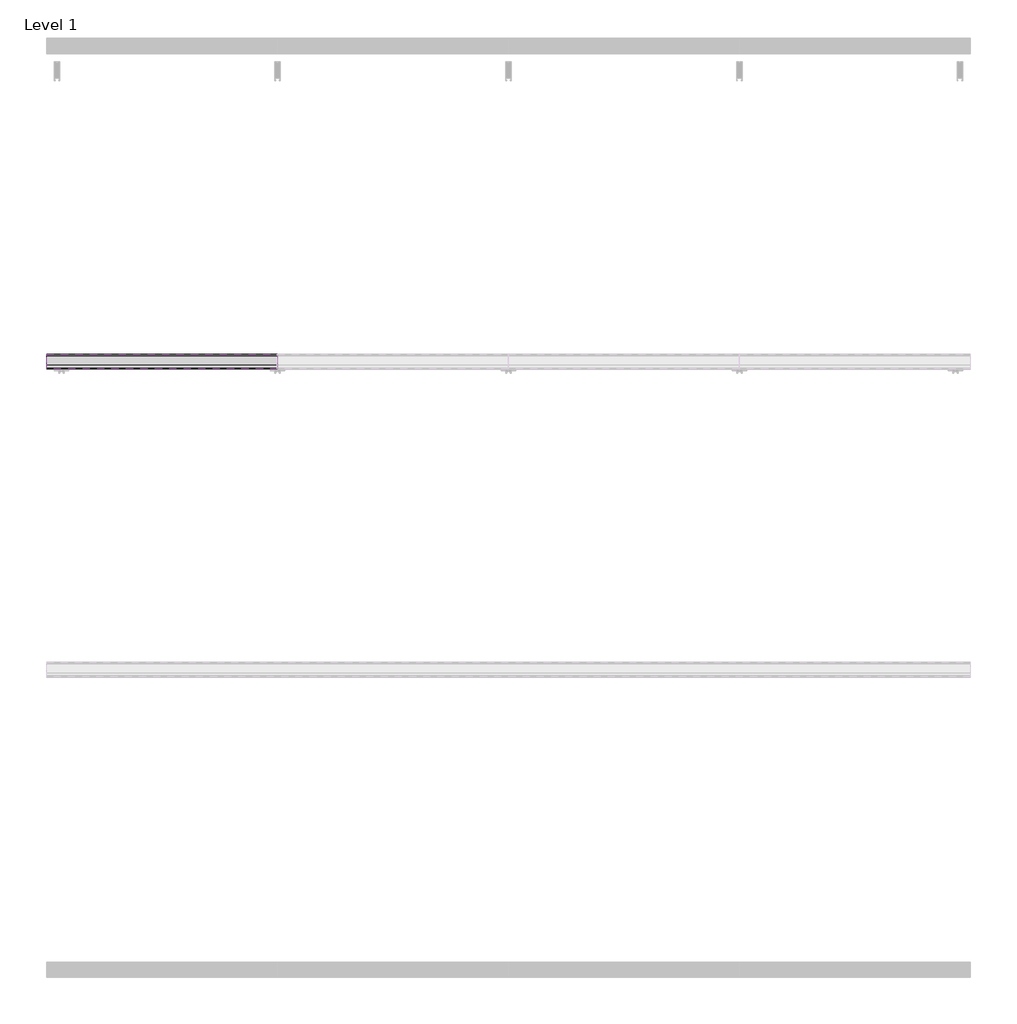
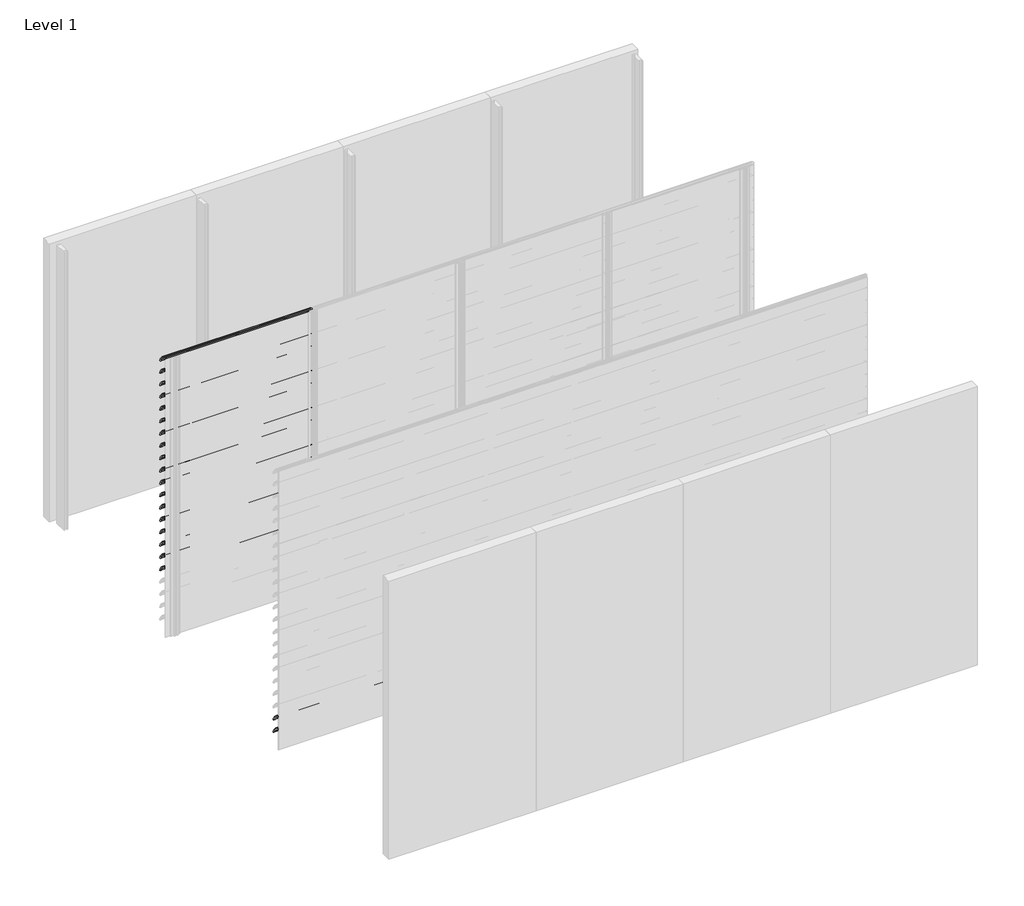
# One storey, part 4 of 57: 20 proxies.
"""IFC4 building model written with IfcOpenShell, lengths in millimetres."""

from ifc_helpers import new_model, si_unit, point, frame, frame_2d, origin, place, context, project, spatial, polyline, circle_curve, trimmed, segment, composite_curve, outline, extrude, element, save

model = new_model("IFC4")

# Units and contexts
model_context = context("Model", 3, world=origin())
ifc_project = project(units=[si_unit("LENGTHUNIT", "METRE", prefix="MILLI")], contexts=[model_context])

# Site, building, storey
site = spatial("IfcSite", under=ifc_project)
building = spatial("IfcBuilding", under=site)
storey = spatial("IfcBuildingStorey", under=building, Name="Level 1", Elevation=0.0)

# Proxies
placement = place(None, origin())
element("IfcBuildingElementProxy", 1, Name="Wall Sweeps", at=placement, inside=storey, context=model_context, shape_type="SweptSolid", body=[
    extrude(outline(composite_curve([segment(trimmed(circle_curve(frame_2d((-53993.7822526, 3016.4913792)), 4.2177474), [point((-53989.6985606, 3017.5462976))], [point((-53993.7822526, 3020.7091266))], False, "CARTESIAN"), True, "CONTINUOUS"), segment(trimmed(circle_curve(frame_2d((-54018.7150834, 2918.2536312)), 105.4456002), [point((-53993.7822526, 3020.7091266))], [point((-53971.7914298, 3012.6832099))], False, "CARTESIAN"), True, "CONTINUOUS"), segment(trimmed(circle_curve(frame_2d((-54061.7199745, 2864.0352476)), 173.7335887), [point((-53971.7914298, 3012.6832099))], [point((-53913.0720121, 2953.9637922))], False, "CARTESIAN"), True, "CONTINUOUS"), segment(trimmed(circle_curve(frame_2d((-54004.9297178, 2902.1860314)), 105.4456002), [point((-53913.0720121, 2953.9637922))], [point((-53903.6249616, 2931.4455765))], False, "CARTESIAN"), True, "CONTINUOUS"), segment(trimmed(circle_curve(frame_2d((-53907.809737, 2930.3307305)), 4.3307305), [point((-53903.6249616, 2931.4455765))], [point((-53909.0769196, 2926.189538))], False, "CARTESIAN"), True, "CONTINUOUS"), segment(polyline([(-53909.0769196, 2926.189538), (-53934.7401984, 2950.9722783)]), True, "CONTINUOUS"), segment(trimmed(circle_curve(frame_2d((-53931.3879574, 2953.2977626)), 4.079877), [point((-53934.7401984, 2950.9722783))], [point((-53930.7310597, 2957.3244091))], False, "CARTESIAN"), True, "CONTINUOUS"), segment(trimmed(circle_curve(frame_2d((-54014.6665585, 2935.2544323)), 86.7885467), [point((-53930.7310597, 2957.3244091))], [point((-53942.3028351, 2983.1683485))], True, "CARTESIAN"), True, "CONTINUOUS"), segment(polyline([(-53942.3028351, 2983.1683485), (-53940.7230099, 2985.9046861)]), True, "CONTINUOUS"), segment(trimmed(circle_curve(frame_2d((-54061.7199745, 2864.0352476)), 171.7335887), [point((-53940.7230099, 2985.9046861))], [point((-53972.7555872, 3010.9289618))], True, "CARTESIAN"), True, "CONTINUOUS"), segment(trimmed(circle_curve(frame_2d((-54018.7150834, 2918.2536312)), 103.4456002), [point((-53972.7555872, 3010.9289618))], [point((-53989.6985606, 3017.5462976))], True, "CARTESIAN"), True, "CONTINUOUS")], self_intersect=False)), frame((0.0, 0.0, 0.0), z_axis=(1.0, 0.0, 0.0), x_axis=(0.0, 1.0, 0.0)), (0.0, 0.0, 1.0), 1500.0),
])
element("IfcBuildingElementProxy", 2, Name="Wall Sweeps", at=placement, inside=storey, context=model_context, shape_type="SweptSolid", body=[
    extrude(outline(composite_curve([segment(trimmed(circle_curve(frame_2d((-53993.7822526, 2883.4913792)), 4.2177474), [point((-53989.6985606, 2884.5462976))], [point((-53993.7822526, 2887.7091266))], False, "CARTESIAN"), True, "CONTINUOUS"), segment(trimmed(circle_curve(frame_2d((-54018.7150834, 2785.2536312)), 105.4456002), [point((-53993.7822526, 2887.7091266))], [point((-53971.7914298, 2879.6832099))], False, "CARTESIAN"), True, "CONTINUOUS"), segment(trimmed(circle_curve(frame_2d((-54061.7199745, 2731.0352476)), 173.7335887), [point((-53971.7914298, 2879.6832099))], [point((-53913.0720121, 2820.9637922))], False, "CARTESIAN"), True, "CONTINUOUS"), segment(trimmed(circle_curve(frame_2d((-54004.9297178, 2769.1860314)), 105.4456002), [point((-53913.0720121, 2820.9637922))], [point((-53903.6249616, 2798.4455765))], False, "CARTESIAN"), True, "CONTINUOUS"), segment(trimmed(circle_curve(frame_2d((-53907.809737, 2797.3307305)), 4.3307305), [point((-53903.6249616, 2798.4455765))], [point((-53909.0769196, 2793.189538))], False, "CARTESIAN"), True, "CONTINUOUS"), segment(polyline([(-53909.0769196, 2793.189538), (-53934.7401984, 2817.9722783)]), True, "CONTINUOUS"), segment(trimmed(circle_curve(frame_2d((-53931.3879574, 2820.2977626)), 4.079877), [point((-53934.7401984, 2817.9722783))], [point((-53930.7310597, 2824.3244091))], False, "CARTESIAN"), True, "CONTINUOUS"), segment(trimmed(circle_curve(frame_2d((-54014.6665585, 2802.2544323)), 86.7885467), [point((-53930.7310597, 2824.3244091))], [point((-53942.3028351, 2850.1683485))], True, "CARTESIAN"), True, "CONTINUOUS"), segment(polyline([(-53942.3028351, 2850.1683485), (-53940.7230099, 2852.9046861)]), True, "CONTINUOUS"), segment(trimmed(circle_curve(frame_2d((-54061.7199745, 2731.0352476)), 171.7335887), [point((-53940.7230099, 2852.9046861))], [point((-53972.7555872, 2877.9289618))], True, "CARTESIAN"), True, "CONTINUOUS"), segment(trimmed(circle_curve(frame_2d((-54018.7150834, 2785.2536312)), 103.4456002), [point((-53972.7555872, 2877.9289618))], [point((-53989.6985606, 2884.5462976))], True, "CARTESIAN"), True, "CONTINUOUS")], self_intersect=False)), frame((0.0, 0.0, 0.0), z_axis=(1.0, 0.0, 0.0), x_axis=(0.0, 1.0, 0.0)), (0.0, 0.0, 1.0), 1500.0),
])
element("IfcBuildingElementProxy", 3, Name="Wall Sweeps", at=placement, inside=storey, context=model_context, shape_type="SweptSolid", body=[
    extrude(outline(composite_curve([segment(trimmed(circle_curve(frame_2d((-53993.7822526, 2750.4913792)), 4.2177474), [point((-53989.6985606, 2751.5462976))], [point((-53993.7822526, 2754.7091266))], False, "CARTESIAN"), True, "CONTINUOUS"), segment(trimmed(circle_curve(frame_2d((-54018.7150834, 2652.2536312)), 105.4456002), [point((-53993.7822526, 2754.7091266))], [point((-53971.7914298, 2746.6832099))], False, "CARTESIAN"), True, "CONTINUOUS"), segment(trimmed(circle_curve(frame_2d((-54061.7199745, 2598.0352476)), 173.7335887), [point((-53971.7914298, 2746.6832099))], [point((-53913.0720121, 2687.9637922))], False, "CARTESIAN"), True, "CONTINUOUS"), segment(trimmed(circle_curve(frame_2d((-54004.9297178, 2636.1860314)), 105.4456002), [point((-53913.0720121, 2687.9637922))], [point((-53903.6249616, 2665.4455765))], False, "CARTESIAN"), True, "CONTINUOUS"), segment(trimmed(circle_curve(frame_2d((-53907.809737, 2664.3307305)), 4.3307305), [point((-53903.6249616, 2665.4455765))], [point((-53909.0769196, 2660.189538))], False, "CARTESIAN"), True, "CONTINUOUS"), segment(polyline([(-53909.0769196, 2660.189538), (-53934.7401984, 2684.9722783)]), True, "CONTINUOUS"), segment(trimmed(circle_curve(frame_2d((-53931.3879574, 2687.2977626)), 4.079877), [point((-53934.7401984, 2684.9722783))], [point((-53930.7310597, 2691.3244091))], False, "CARTESIAN"), True, "CONTINUOUS"), segment(trimmed(circle_curve(frame_2d((-54014.6665585, 2669.2544323)), 86.7885467), [point((-53930.7310597, 2691.3244091))], [point((-53942.3028351, 2717.1683485))], True, "CARTESIAN"), True, "CONTINUOUS"), segment(polyline([(-53942.3028351, 2717.1683485), (-53940.7230099, 2719.9046861)]), True, "CONTINUOUS"), segment(trimmed(circle_curve(frame_2d((-54061.7199745, 2598.0352476)), 171.7335887), [point((-53940.7230099, 2719.9046861))], [point((-53972.7555872, 2744.9289618))], True, "CARTESIAN"), True, "CONTINUOUS"), segment(trimmed(circle_curve(frame_2d((-54018.7150834, 2652.2536312)), 103.4456002), [point((-53972.7555872, 2744.9289618))], [point((-53989.6985606, 2751.5462976))], True, "CARTESIAN"), True, "CONTINUOUS")], self_intersect=False)), frame((0.0, 0.0, 0.0), z_axis=(1.0, 0.0, 0.0), x_axis=(0.0, 1.0, 0.0)), (0.0, 0.0, 1.0), 1500.0),
])
element("IfcBuildingElementProxy", 4, Name="Wall Sweeps", at=placement, inside=storey, context=model_context, shape_type="SweptSolid", body=[
    extrude(outline(composite_curve([segment(trimmed(circle_curve(frame_2d((-53993.7822526, 2617.4913792)), 4.2177474), [point((-53989.6985606, 2618.5462976))], [point((-53993.7822526, 2621.7091266))], False, "CARTESIAN"), True, "CONTINUOUS"), segment(trimmed(circle_curve(frame_2d((-54018.7150834, 2519.2536312)), 105.4456002), [point((-53993.7822526, 2621.7091266))], [point((-53971.7914298, 2613.6832099))], False, "CARTESIAN"), True, "CONTINUOUS"), segment(trimmed(circle_curve(frame_2d((-54061.7199745, 2465.0352476)), 173.7335887), [point((-53971.7914298, 2613.6832099))], [point((-53913.0720121, 2554.9637922))], False, "CARTESIAN"), True, "CONTINUOUS"), segment(trimmed(circle_curve(frame_2d((-54004.9297178, 2503.1860314)), 105.4456002), [point((-53913.0720121, 2554.9637922))], [point((-53903.6249616, 2532.4455765))], False, "CARTESIAN"), True, "CONTINUOUS"), segment(trimmed(circle_curve(frame_2d((-53907.809737, 2531.3307305)), 4.3307305), [point((-53903.6249616, 2532.4455765))], [point((-53909.0769196, 2527.189538))], False, "CARTESIAN"), True, "CONTINUOUS"), segment(polyline([(-53909.0769196, 2527.189538), (-53934.7401984, 2551.9722783)]), True, "CONTINUOUS"), segment(trimmed(circle_curve(frame_2d((-53931.3879574, 2554.2977626)), 4.079877), [point((-53934.7401984, 2551.9722783))], [point((-53930.7310597, 2558.3244091))], False, "CARTESIAN"), True, "CONTINUOUS"), segment(trimmed(circle_curve(frame_2d((-54014.6665585, 2536.2544323)), 86.7885467), [point((-53930.7310597, 2558.3244091))], [point((-53942.3028351, 2584.1683485))], True, "CARTESIAN"), True, "CONTINUOUS"), segment(polyline([(-53942.3028351, 2584.1683485), (-53940.7230099, 2586.9046861)]), True, "CONTINUOUS"), segment(trimmed(circle_curve(frame_2d((-54061.7199745, 2465.0352476)), 171.7335887), [point((-53940.7230099, 2586.9046861))], [point((-53972.7555872, 2611.9289618))], True, "CARTESIAN"), True, "CONTINUOUS"), segment(trimmed(circle_curve(frame_2d((-54018.7150834, 2519.2536312)), 103.4456002), [point((-53972.7555872, 2611.9289618))], [point((-53989.6985606, 2618.5462976))], True, "CARTESIAN"), True, "CONTINUOUS")], self_intersect=False)), frame((0.0, 0.0, 0.0), z_axis=(1.0, 0.0, 0.0), x_axis=(0.0, 1.0, 0.0)), (0.0, 0.0, 1.0), 1500.0),
])
element("IfcBuildingElementProxy", 5, Name="Wall Sweeps", at=placement, inside=storey, context=model_context, shape_type="SweptSolid", body=[
    extrude(outline(composite_curve([segment(trimmed(circle_curve(frame_2d((-53993.7822526, 2484.4913792)), 4.2177474), [point((-53989.6985606, 2485.5462976))], [point((-53993.7822526, 2488.7091266))], False, "CARTESIAN"), True, "CONTINUOUS"), segment(trimmed(circle_curve(frame_2d((-54018.7150834, 2386.2536312)), 105.4456002), [point((-53993.7822526, 2488.7091266))], [point((-53971.7914298, 2480.6832099))], False, "CARTESIAN"), True, "CONTINUOUS"), segment(trimmed(circle_curve(frame_2d((-54061.7199745, 2332.0352476)), 173.7335887), [point((-53971.7914298, 2480.6832099))], [point((-53913.0720121, 2421.9637922))], False, "CARTESIAN"), True, "CONTINUOUS"), segment(trimmed(circle_curve(frame_2d((-54004.9297178, 2370.1860314)), 105.4456002), [point((-53913.0720121, 2421.9637922))], [point((-53903.6249616, 2399.4455765))], False, "CARTESIAN"), True, "CONTINUOUS"), segment(trimmed(circle_curve(frame_2d((-53907.809737, 2398.3307305)), 4.3307305), [point((-53903.6249616, 2399.4455765))], [point((-53909.0769196, 2394.189538))], False, "CARTESIAN"), True, "CONTINUOUS"), segment(polyline([(-53909.0769196, 2394.189538), (-53934.7401984, 2418.9722783)]), True, "CONTINUOUS"), segment(trimmed(circle_curve(frame_2d((-53931.3879574, 2421.2977626)), 4.079877), [point((-53934.7401984, 2418.9722783))], [point((-53930.7310597, 2425.3244091))], False, "CARTESIAN"), True, "CONTINUOUS"), segment(trimmed(circle_curve(frame_2d((-54014.6665585, 2403.2544323)), 86.7885467), [point((-53930.7310597, 2425.3244091))], [point((-53942.3028351, 2451.1683485))], True, "CARTESIAN"), True, "CONTINUOUS"), segment(polyline([(-53942.3028351, 2451.1683485), (-53940.7230099, 2453.9046861)]), True, "CONTINUOUS"), segment(trimmed(circle_curve(frame_2d((-54061.7199745, 2332.0352476)), 171.7335887), [point((-53940.7230099, 2453.9046861))], [point((-53972.7555872, 2478.9289618))], True, "CARTESIAN"), True, "CONTINUOUS"), segment(trimmed(circle_curve(frame_2d((-54018.7150834, 2386.2536312)), 103.4456002), [point((-53972.7555872, 2478.9289618))], [point((-53989.6985606, 2485.5462976))], True, "CARTESIAN"), True, "CONTINUOUS")], self_intersect=False)), frame((0.0, 0.0, 0.0), z_axis=(1.0, 0.0, 0.0), x_axis=(0.0, 1.0, 0.0)), (0.0, 0.0, 1.0), 1500.0),
])
element("IfcBuildingElementProxy", 6, Name="Wall Sweeps", at=placement, inside=storey, context=model_context, shape_type="SweptSolid", body=[
    extrude(outline(composite_curve([segment(trimmed(circle_curve(frame_2d((-53993.7822526, 2351.4913792)), 4.2177474), [point((-53989.6985606, 2352.5462976))], [point((-53993.7822526, 2355.7091266))], False, "CARTESIAN"), True, "CONTINUOUS"), segment(trimmed(circle_curve(frame_2d((-54018.7150834, 2253.2536312)), 105.4456002), [point((-53993.7822526, 2355.7091266))], [point((-53971.7914298, 2347.6832099))], False, "CARTESIAN"), True, "CONTINUOUS"), segment(trimmed(circle_curve(frame_2d((-54061.7199745, 2199.0352476)), 173.7335887), [point((-53971.7914298, 2347.6832099))], [point((-53913.0720121, 2288.9637922))], False, "CARTESIAN"), True, "CONTINUOUS"), segment(trimmed(circle_curve(frame_2d((-54004.9297178, 2237.1860314)), 105.4456002), [point((-53913.0720121, 2288.9637922))], [point((-53903.6249616, 2266.4455765))], False, "CARTESIAN"), True, "CONTINUOUS"), segment(trimmed(circle_curve(frame_2d((-53907.809737, 2265.3307305)), 4.3307305), [point((-53903.6249616, 2266.4455765))], [point((-53909.0769196, 2261.189538))], False, "CARTESIAN"), True, "CONTINUOUS"), segment(polyline([(-53909.0769196, 2261.189538), (-53934.7401984, 2285.9722783)]), True, "CONTINUOUS"), segment(trimmed(circle_curve(frame_2d((-53931.3879574, 2288.2977626)), 4.079877), [point((-53934.7401984, 2285.9722783))], [point((-53930.7310597, 2292.3244091))], False, "CARTESIAN"), True, "CONTINUOUS"), segment(trimmed(circle_curve(frame_2d((-54014.6665585, 2270.2544323)), 86.7885467), [point((-53930.7310597, 2292.3244091))], [point((-53942.3028351, 2318.1683485))], True, "CARTESIAN"), True, "CONTINUOUS"), segment(polyline([(-53942.3028351, 2318.1683485), (-53940.7230099, 2320.9046861)]), True, "CONTINUOUS"), segment(trimmed(circle_curve(frame_2d((-54061.7199745, 2199.0352476)), 171.7335887), [point((-53940.7230099, 2320.9046861))], [point((-53972.7555872, 2345.9289618))], True, "CARTESIAN"), True, "CONTINUOUS"), segment(trimmed(circle_curve(frame_2d((-54018.7150834, 2253.2536312)), 103.4456002), [point((-53972.7555872, 2345.9289618))], [point((-53989.6985606, 2352.5462976))], True, "CARTESIAN"), True, "CONTINUOUS")], self_intersect=False)), frame((0.0, 0.0, 0.0), z_axis=(1.0, 0.0, 0.0), x_axis=(0.0, 1.0, 0.0)), (0.0, 0.0, 1.0), 1500.0),
])
element("IfcBuildingElementProxy", 7, Name="Wall Sweeps", at=placement, inside=storey, context=model_context, shape_type="SweptSolid", body=[
    extrude(outline(composite_curve([segment(trimmed(circle_curve(frame_2d((-53993.7822526, 2218.4913792)), 4.2177474), [point((-53989.6985606, 2219.5462976))], [point((-53993.7822526, 2222.7091266))], False, "CARTESIAN"), True, "CONTINUOUS"), segment(trimmed(circle_curve(frame_2d((-54018.7150834, 2120.2536312)), 105.4456002), [point((-53993.7822526, 2222.7091266))], [point((-53971.7914298, 2214.6832099))], False, "CARTESIAN"), True, "CONTINUOUS"), segment(trimmed(circle_curve(frame_2d((-54061.7199745, 2066.0352476)), 173.7335887), [point((-53971.7914298, 2214.6832099))], [point((-53913.0720121, 2155.9637922))], False, "CARTESIAN"), True, "CONTINUOUS"), segment(trimmed(circle_curve(frame_2d((-54004.9297178, 2104.1860314)), 105.4456002), [point((-53913.0720121, 2155.9637922))], [point((-53903.6249616, 2133.4455765))], False, "CARTESIAN"), True, "CONTINUOUS"), segment(trimmed(circle_curve(frame_2d((-53907.809737, 2132.3307305)), 4.3307305), [point((-53903.6249616, 2133.4455765))], [point((-53909.0769196, 2128.189538))], False, "CARTESIAN"), True, "CONTINUOUS"), segment(polyline([(-53909.0769196, 2128.189538), (-53934.7401984, 2152.9722783)]), True, "CONTINUOUS"), segment(trimmed(circle_curve(frame_2d((-53931.3879574, 2155.2977626)), 4.079877), [point((-53934.7401984, 2152.9722783))], [point((-53930.7310597, 2159.3244091))], False, "CARTESIAN"), True, "CONTINUOUS"), segment(trimmed(circle_curve(frame_2d((-54014.6665585, 2137.2544323)), 86.7885467), [point((-53930.7310597, 2159.3244091))], [point((-53942.3028351, 2185.1683485))], True, "CARTESIAN"), True, "CONTINUOUS"), segment(polyline([(-53942.3028351, 2185.1683485), (-53940.7230099, 2187.9046861)]), True, "CONTINUOUS"), segment(trimmed(circle_curve(frame_2d((-54061.7199745, 2066.0352476)), 171.7335887), [point((-53940.7230099, 2187.9046861))], [point((-53972.7555872, 2212.9289618))], True, "CARTESIAN"), True, "CONTINUOUS"), segment(trimmed(circle_curve(frame_2d((-54018.7150834, 2120.2536312)), 103.4456002), [point((-53972.7555872, 2212.9289618))], [point((-53989.6985606, 2219.5462976))], True, "CARTESIAN"), True, "CONTINUOUS")], self_intersect=False)), frame((0.0, 0.0, 0.0), z_axis=(1.0, 0.0, 0.0), x_axis=(0.0, 1.0, 0.0)), (0.0, 0.0, 1.0), 1500.0),
])
element("IfcBuildingElementProxy", 8, Name="Wall Sweeps", at=placement, inside=storey, context=model_context, shape_type="SweptSolid", body=[
    extrude(outline(composite_curve([segment(trimmed(circle_curve(frame_2d((-53993.7822526, 2085.4913792)), 4.2177474), [point((-53989.6985606, 2086.5462976))], [point((-53993.7822526, 2089.7091266))], False, "CARTESIAN"), True, "CONTINUOUS"), segment(trimmed(circle_curve(frame_2d((-54018.7150834, 1987.2536312)), 105.4456002), [point((-53993.7822526, 2089.7091266))], [point((-53971.7914298, 2081.6832099))], False, "CARTESIAN"), True, "CONTINUOUS"), segment(trimmed(circle_curve(frame_2d((-54061.7199745, 1933.0352476)), 173.7335887), [point((-53971.7914298, 2081.6832099))], [point((-53913.0720121, 2022.9637922))], False, "CARTESIAN"), True, "CONTINUOUS"), segment(trimmed(circle_curve(frame_2d((-54004.9297178, 1971.1860314)), 105.4456002), [point((-53913.0720121, 2022.9637922))], [point((-53903.6249616, 2000.4455765))], False, "CARTESIAN"), True, "CONTINUOUS"), segment(trimmed(circle_curve(frame_2d((-53907.809737, 1999.3307305)), 4.3307305), [point((-53903.6249616, 2000.4455765))], [point((-53909.0769196, 1995.189538))], False, "CARTESIAN"), True, "CONTINUOUS"), segment(polyline([(-53909.0769196, 1995.189538), (-53934.7401984, 2019.9722783)]), True, "CONTINUOUS"), segment(trimmed(circle_curve(frame_2d((-53931.3879574, 2022.2977626)), 4.079877), [point((-53934.7401984, 2019.9722783))], [point((-53930.7310597, 2026.3244091))], False, "CARTESIAN"), True, "CONTINUOUS"), segment(trimmed(circle_curve(frame_2d((-54014.6665585, 2004.2544323)), 86.7885467), [point((-53930.7310597, 2026.3244091))], [point((-53942.3028351, 2052.1683485))], True, "CARTESIAN"), True, "CONTINUOUS"), segment(polyline([(-53942.3028351, 2052.1683485), (-53940.7230099, 2054.9046861)]), True, "CONTINUOUS"), segment(trimmed(circle_curve(frame_2d((-54061.7199745, 1933.0352476)), 171.7335887), [point((-53940.7230099, 2054.9046861))], [point((-53972.7555872, 2079.9289618))], True, "CARTESIAN"), True, "CONTINUOUS"), segment(trimmed(circle_curve(frame_2d((-54018.7150834, 1987.2536312)), 103.4456002), [point((-53972.7555872, 2079.9289618))], [point((-53989.6985606, 2086.5462976))], True, "CARTESIAN"), True, "CONTINUOUS")], self_intersect=False)), frame((0.0, 0.0, 0.0), z_axis=(1.0, 0.0, 0.0), x_axis=(0.0, 1.0, 0.0)), (0.0, 0.0, 1.0), 1500.0),
])
element("IfcBuildingElementProxy", 9, Name="Wall Sweeps", at=placement, inside=storey, context=model_context, shape_type="SweptSolid", body=[
    extrude(outline(composite_curve([segment(trimmed(circle_curve(frame_2d((-53993.7822526, 1952.4913792)), 4.2177474), [point((-53989.6985606, 1953.5462976))], [point((-53993.7822526, 1956.7091266))], False, "CARTESIAN"), True, "CONTINUOUS"), segment(trimmed(circle_curve(frame_2d((-54018.7150834, 1854.2536312)), 105.4456002), [point((-53993.7822526, 1956.7091266))], [point((-53971.7914298, 1948.6832099))], False, "CARTESIAN"), True, "CONTINUOUS"), segment(trimmed(circle_curve(frame_2d((-54061.7199745, 1800.0352476)), 173.7335887), [point((-53971.7914298, 1948.6832099))], [point((-53913.0720121, 1889.9637922))], False, "CARTESIAN"), True, "CONTINUOUS"), segment(trimmed(circle_curve(frame_2d((-54004.9297178, 1838.1860314)), 105.4456002), [point((-53913.0720121, 1889.9637922))], [point((-53903.6249616, 1867.4455765))], False, "CARTESIAN"), True, "CONTINUOUS"), segment(trimmed(circle_curve(frame_2d((-53907.809737, 1866.3307305)), 4.3307305), [point((-53903.6249616, 1867.4455765))], [point((-53909.0769196, 1862.189538))], False, "CARTESIAN"), True, "CONTINUOUS"), segment(polyline([(-53909.0769196, 1862.189538), (-53934.7401984, 1886.9722783)]), True, "CONTINUOUS"), segment(trimmed(circle_curve(frame_2d((-53931.3879574, 1889.2977626)), 4.079877), [point((-53934.7401984, 1886.9722783))], [point((-53930.7310597, 1893.3244091))], False, "CARTESIAN"), True, "CONTINUOUS"), segment(trimmed(circle_curve(frame_2d((-54014.6665585, 1871.2544323)), 86.7885467), [point((-53930.7310597, 1893.3244091))], [point((-53942.3028351, 1919.1683485))], True, "CARTESIAN"), True, "CONTINUOUS"), segment(polyline([(-53942.3028351, 1919.1683485), (-53940.7230099, 1921.9046861)]), True, "CONTINUOUS"), segment(trimmed(circle_curve(frame_2d((-54061.7199745, 1800.0352476)), 171.7335887), [point((-53940.7230099, 1921.9046861))], [point((-53972.7555872, 1946.9289618))], True, "CARTESIAN"), True, "CONTINUOUS"), segment(trimmed(circle_curve(frame_2d((-54018.7150834, 1854.2536312)), 103.4456002), [point((-53972.7555872, 1946.9289618))], [point((-53989.6985606, 1953.5462976))], True, "CARTESIAN"), True, "CONTINUOUS")], self_intersect=False)), frame((0.0, 0.0, 0.0), z_axis=(1.0, 0.0, 0.0), x_axis=(0.0, 1.0, 0.0)), (0.0, 0.0, 1.0), 1500.0),
])
element("IfcBuildingElementProxy", 10, Name="Wall Sweeps", at=placement, inside=storey, context=model_context, shape_type="SweptSolid", body=[
    extrude(outline(composite_curve([segment(trimmed(circle_curve(frame_2d((-53993.7822526, 1819.4913792)), 4.2177474), [point((-53989.6985606, 1820.5462976))], [point((-53993.7822526, 1823.7091266))], False, "CARTESIAN"), True, "CONTINUOUS"), segment(trimmed(circle_curve(frame_2d((-54018.7150834, 1721.2536312)), 105.4456002), [point((-53993.7822526, 1823.7091266))], [point((-53971.7914298, 1815.6832099))], False, "CARTESIAN"), True, "CONTINUOUS"), segment(trimmed(circle_curve(frame_2d((-54061.7199745, 1667.0352476)), 173.7335887), [point((-53971.7914298, 1815.6832099))], [point((-53913.0720121, 1756.9637922))], False, "CARTESIAN"), True, "CONTINUOUS"), segment(trimmed(circle_curve(frame_2d((-54004.9297178, 1705.1860314)), 105.4456002), [point((-53913.0720121, 1756.9637922))], [point((-53903.6249616, 1734.4455765))], False, "CARTESIAN"), True, "CONTINUOUS"), segment(trimmed(circle_curve(frame_2d((-53907.809737, 1733.3307305)), 4.3307305), [point((-53903.6249616, 1734.4455765))], [point((-53909.0769196, 1729.189538))], False, "CARTESIAN"), True, "CONTINUOUS"), segment(polyline([(-53909.0769196, 1729.189538), (-53934.7401984, 1753.9722783)]), True, "CONTINUOUS"), segment(trimmed(circle_curve(frame_2d((-53931.3879574, 1756.2977626)), 4.079877), [point((-53934.7401984, 1753.9722783))], [point((-53930.7310597, 1760.3244091))], False, "CARTESIAN"), True, "CONTINUOUS"), segment(trimmed(circle_curve(frame_2d((-54014.6665585, 1738.2544323)), 86.7885467), [point((-53930.7310597, 1760.3244091))], [point((-53942.3028351, 1786.1683485))], True, "CARTESIAN"), True, "CONTINUOUS"), segment(polyline([(-53942.3028351, 1786.1683485), (-53940.7230099, 1788.9046861)]), True, "CONTINUOUS"), segment(trimmed(circle_curve(frame_2d((-54061.7199745, 1667.0352476)), 171.7335887), [point((-53940.7230099, 1788.9046861))], [point((-53972.7555872, 1813.9289618))], True, "CARTESIAN"), True, "CONTINUOUS"), segment(trimmed(circle_curve(frame_2d((-54018.7150834, 1721.2536312)), 103.4456002), [point((-53972.7555872, 1813.9289618))], [point((-53989.6985606, 1820.5462976))], True, "CARTESIAN"), True, "CONTINUOUS")], self_intersect=False)), frame((0.0, 0.0, 0.0), z_axis=(1.0, 0.0, 0.0), x_axis=(0.0, 1.0, 0.0)), (0.0, 0.0, 1.0), 1500.0),
])
element("IfcBuildingElementProxy", 11, Name="Wall Sweeps", at=placement, inside=storey, context=model_context, shape_type="SweptSolid", body=[
    extrude(outline(composite_curve([segment(trimmed(circle_curve(frame_2d((-53993.7822526, 1686.4913792)), 4.2177474), [point((-53989.6985606, 1687.5462976))], [point((-53993.7822526, 1690.7091266))], False, "CARTESIAN"), True, "CONTINUOUS"), segment(trimmed(circle_curve(frame_2d((-54018.7150834, 1588.2536312)), 105.4456002), [point((-53993.7822526, 1690.7091266))], [point((-53971.7914298, 1682.6832099))], False, "CARTESIAN"), True, "CONTINUOUS"), segment(trimmed(circle_curve(frame_2d((-54061.7199745, 1534.0352476)), 173.7335887), [point((-53971.7914298, 1682.6832099))], [point((-53913.0720121, 1623.9637922))], False, "CARTESIAN"), True, "CONTINUOUS"), segment(trimmed(circle_curve(frame_2d((-54004.9297178, 1572.1860314)), 105.4456002), [point((-53913.0720121, 1623.9637922))], [point((-53903.6249616, 1601.4455765))], False, "CARTESIAN"), True, "CONTINUOUS"), segment(trimmed(circle_curve(frame_2d((-53907.809737, 1600.3307305)), 4.3307305), [point((-53903.6249616, 1601.4455765))], [point((-53909.0769196, 1596.189538))], False, "CARTESIAN"), True, "CONTINUOUS"), segment(polyline([(-53909.0769196, 1596.189538), (-53934.7401984, 1620.9722783)]), True, "CONTINUOUS"), segment(trimmed(circle_curve(frame_2d((-53931.3879574, 1623.2977626)), 4.079877), [point((-53934.7401984, 1620.9722783))], [point((-53930.7310597, 1627.3244091))], False, "CARTESIAN"), True, "CONTINUOUS"), segment(trimmed(circle_curve(frame_2d((-54014.6665585, 1605.2544323)), 86.7885467), [point((-53930.7310597, 1627.3244091))], [point((-53942.3028351, 1653.1683485))], True, "CARTESIAN"), True, "CONTINUOUS"), segment(polyline([(-53942.3028351, 1653.1683485), (-53940.7230099, 1655.9046861)]), True, "CONTINUOUS"), segment(trimmed(circle_curve(frame_2d((-54061.7199745, 1534.0352476)), 171.7335887), [point((-53940.7230099, 1655.9046861))], [point((-53972.7555872, 1680.9289618))], True, "CARTESIAN"), True, "CONTINUOUS"), segment(trimmed(circle_curve(frame_2d((-54018.7150834, 1588.2536312)), 103.4456002), [point((-53972.7555872, 1680.9289618))], [point((-53989.6985606, 1687.5462976))], True, "CARTESIAN"), True, "CONTINUOUS")], self_intersect=False)), frame((0.0, 0.0, 0.0), z_axis=(1.0, 0.0, 0.0), x_axis=(0.0, 1.0, 0.0)), (0.0, 0.0, 1.0), 1500.0),
])
element("IfcBuildingElementProxy", 12, Name="Wall Sweeps", at=placement, inside=storey, context=model_context, shape_type="SweptSolid", body=[
    extrude(outline(composite_curve([segment(trimmed(circle_curve(frame_2d((-53993.7822526, 1553.4913792)), 4.2177474), [point((-53989.6985606, 1554.5462976))], [point((-53993.7822526, 1557.7091266))], False, "CARTESIAN"), True, "CONTINUOUS"), segment(trimmed(circle_curve(frame_2d((-54018.7150834, 1455.2536312)), 105.4456002), [point((-53993.7822526, 1557.7091266))], [point((-53971.7914298, 1549.6832099))], False, "CARTESIAN"), True, "CONTINUOUS"), segment(trimmed(circle_curve(frame_2d((-54061.7199745, 1401.0352476)), 173.7335887), [point((-53971.7914298, 1549.6832099))], [point((-53913.0720121, 1490.9637922))], False, "CARTESIAN"), True, "CONTINUOUS"), segment(trimmed(circle_curve(frame_2d((-54004.9297178, 1439.1860314)), 105.4456002), [point((-53913.0720121, 1490.9637922))], [point((-53903.6249616, 1468.4455765))], False, "CARTESIAN"), True, "CONTINUOUS"), segment(trimmed(circle_curve(frame_2d((-53907.809737, 1467.3307305)), 4.3307305), [point((-53903.6249616, 1468.4455765))], [point((-53909.0769196, 1463.189538))], False, "CARTESIAN"), True, "CONTINUOUS"), segment(polyline([(-53909.0769196, 1463.189538), (-53934.7401984, 1487.9722783)]), True, "CONTINUOUS"), segment(trimmed(circle_curve(frame_2d((-53931.3879574, 1490.2977626)), 4.079877), [point((-53934.7401984, 1487.9722783))], [point((-53930.7310597, 1494.3244091))], False, "CARTESIAN"), True, "CONTINUOUS"), segment(trimmed(circle_curve(frame_2d((-54014.6665585, 1472.2544323)), 86.7885467), [point((-53930.7310597, 1494.3244091))], [point((-53942.3028351, 1520.1683485))], True, "CARTESIAN"), True, "CONTINUOUS"), segment(polyline([(-53942.3028351, 1520.1683485), (-53940.7230099, 1522.9046861)]), True, "CONTINUOUS"), segment(trimmed(circle_curve(frame_2d((-54061.7199745, 1401.0352476)), 171.7335887), [point((-53940.7230099, 1522.9046861))], [point((-53972.7555872, 1547.9289618))], True, "CARTESIAN"), True, "CONTINUOUS"), segment(trimmed(circle_curve(frame_2d((-54018.7150834, 1455.2536312)), 103.4456002), [point((-53972.7555872, 1547.9289618))], [point((-53989.6985606, 1554.5462976))], True, "CARTESIAN"), True, "CONTINUOUS")], self_intersect=False)), frame((0.0, 0.0, 0.0), z_axis=(1.0, 0.0, 0.0), x_axis=(0.0, 1.0, 0.0)), (0.0, 0.0, 1.0), 1500.0),
])
element("IfcBuildingElementProxy", 13, Name="Wall Sweeps", at=placement, inside=storey, context=model_context, shape_type="SweptSolid", body=[
    extrude(outline(composite_curve([segment(trimmed(circle_curve(frame_2d((-53993.7822526, 1420.4913792)), 4.2177474), [point((-53989.6985606, 1421.5462976))], [point((-53993.7822526, 1424.7091266))], False, "CARTESIAN"), True, "CONTINUOUS"), segment(trimmed(circle_curve(frame_2d((-54018.7150834, 1322.2536312)), 105.4456002), [point((-53993.7822526, 1424.7091266))], [point((-53971.7914298, 1416.6832099))], False, "CARTESIAN"), True, "CONTINUOUS"), segment(trimmed(circle_curve(frame_2d((-54061.7199745, 1268.0352476)), 173.7335887), [point((-53971.7914298, 1416.6832099))], [point((-53913.0720121, 1357.9637922))], False, "CARTESIAN"), True, "CONTINUOUS"), segment(trimmed(circle_curve(frame_2d((-54004.9297178, 1306.1860314)), 105.4456002), [point((-53913.0720121, 1357.9637922))], [point((-53903.6249616, 1335.4455765))], False, "CARTESIAN"), True, "CONTINUOUS"), segment(trimmed(circle_curve(frame_2d((-53907.809737, 1334.3307305)), 4.3307305), [point((-53903.6249616, 1335.4455765))], [point((-53909.0769196, 1330.189538))], False, "CARTESIAN"), True, "CONTINUOUS"), segment(polyline([(-53909.0769196, 1330.189538), (-53934.7401984, 1354.9722783)]), True, "CONTINUOUS"), segment(trimmed(circle_curve(frame_2d((-53931.3879574, 1357.2977626)), 4.079877), [point((-53934.7401984, 1354.9722783))], [point((-53930.7310597, 1361.3244091))], False, "CARTESIAN"), True, "CONTINUOUS"), segment(trimmed(circle_curve(frame_2d((-54014.6665585, 1339.2544323)), 86.7885467), [point((-53930.7310597, 1361.3244091))], [point((-53942.3028351, 1387.1683485))], True, "CARTESIAN"), True, "CONTINUOUS"), segment(polyline([(-53942.3028351, 1387.1683485), (-53940.7230099, 1389.9046861)]), True, "CONTINUOUS"), segment(trimmed(circle_curve(frame_2d((-54061.7199745, 1268.0352476)), 171.7335887), [point((-53940.7230099, 1389.9046861))], [point((-53972.7555872, 1414.9289618))], True, "CARTESIAN"), True, "CONTINUOUS"), segment(trimmed(circle_curve(frame_2d((-54018.7150834, 1322.2536312)), 103.4456002), [point((-53972.7555872, 1414.9289618))], [point((-53989.6985606, 1421.5462976))], True, "CARTESIAN"), True, "CONTINUOUS")], self_intersect=False)), frame((0.0, 0.0, 0.0), z_axis=(1.0, 0.0, 0.0), x_axis=(0.0, 1.0, 0.0)), (0.0, 0.0, 1.0), 1500.0),
])
element("IfcBuildingElementProxy", 14, Name="Wall Sweeps", at=placement, inside=storey, context=model_context, shape_type="SweptSolid", body=[
    extrude(outline(composite_curve([segment(trimmed(circle_curve(frame_2d((-53993.7822526, 1287.4913792)), 4.2177474), [point((-53989.6985606, 1288.5462976))], [point((-53993.7822526, 1291.7091266))], False, "CARTESIAN"), True, "CONTINUOUS"), segment(trimmed(circle_curve(frame_2d((-54018.7150834, 1189.2536312)), 105.4456002), [point((-53993.7822526, 1291.7091266))], [point((-53971.7914298, 1283.6832099))], False, "CARTESIAN"), True, "CONTINUOUS"), segment(trimmed(circle_curve(frame_2d((-54061.7199745, 1135.0352476)), 173.7335887), [point((-53971.7914298, 1283.6832099))], [point((-53913.0720121, 1224.9637922))], False, "CARTESIAN"), True, "CONTINUOUS"), segment(trimmed(circle_curve(frame_2d((-54004.9297178, 1173.1860314)), 105.4456002), [point((-53913.0720121, 1224.9637922))], [point((-53903.6249616, 1202.4455765))], False, "CARTESIAN"), True, "CONTINUOUS"), segment(trimmed(circle_curve(frame_2d((-53907.809737, 1201.3307305)), 4.3307305), [point((-53903.6249616, 1202.4455765))], [point((-53909.0769196, 1197.189538))], False, "CARTESIAN"), True, "CONTINUOUS"), segment(polyline([(-53909.0769196, 1197.189538), (-53934.7401984, 1221.9722783)]), True, "CONTINUOUS"), segment(trimmed(circle_curve(frame_2d((-53931.3879574, 1224.2977626)), 4.079877), [point((-53934.7401984, 1221.9722783))], [point((-53930.7310597, 1228.3244091))], False, "CARTESIAN"), True, "CONTINUOUS"), segment(trimmed(circle_curve(frame_2d((-54014.6665585, 1206.2544323)), 86.7885467), [point((-53930.7310597, 1228.3244091))], [point((-53942.3028351, 1254.1683485))], True, "CARTESIAN"), True, "CONTINUOUS"), segment(polyline([(-53942.3028351, 1254.1683485), (-53940.7230099, 1256.9046861)]), True, "CONTINUOUS"), segment(trimmed(circle_curve(frame_2d((-54061.7199745, 1135.0352476)), 171.7335887), [point((-53940.7230099, 1256.9046861))], [point((-53972.7555872, 1281.9289618))], True, "CARTESIAN"), True, "CONTINUOUS"), segment(trimmed(circle_curve(frame_2d((-54018.7150834, 1189.2536312)), 103.4456002), [point((-53972.7555872, 1281.9289618))], [point((-53989.6985606, 1288.5462976))], True, "CARTESIAN"), True, "CONTINUOUS")], self_intersect=False)), frame((0.0, 0.0, 0.0), z_axis=(1.0, 0.0, 0.0), x_axis=(0.0, 1.0, 0.0)), (0.0, 0.0, 1.0), 1500.0),
])
element("IfcBuildingElementProxy", 15, Name="Wall Sweeps", at=placement, inside=storey, context=model_context, shape_type="SweptSolid", body=[
    extrude(outline(composite_curve([segment(trimmed(circle_curve(frame_2d((-53993.7822526, 1154.4913792)), 4.2177474), [point((-53989.6985606, 1155.5462976))], [point((-53993.7822526, 1158.7091266))], False, "CARTESIAN"), True, "CONTINUOUS"), segment(trimmed(circle_curve(frame_2d((-54018.7150834, 1056.2536312)), 105.4456002), [point((-53993.7822526, 1158.7091266))], [point((-53971.7914298, 1150.6832099))], False, "CARTESIAN"), True, "CONTINUOUS"), segment(trimmed(circle_curve(frame_2d((-54061.7199745, 1002.0352476)), 173.7335887), [point((-53971.7914298, 1150.6832099))], [point((-53913.0720121, 1091.9637922))], False, "CARTESIAN"), True, "CONTINUOUS"), segment(trimmed(circle_curve(frame_2d((-54004.9297178, 1040.1860314)), 105.4456002), [point((-53913.0720121, 1091.9637922))], [point((-53903.6249616, 1069.4455765))], False, "CARTESIAN"), True, "CONTINUOUS"), segment(trimmed(circle_curve(frame_2d((-53907.809737, 1068.3307305)), 4.3307305), [point((-53903.6249616, 1069.4455765))], [point((-53909.0769196, 1064.189538))], False, "CARTESIAN"), True, "CONTINUOUS"), segment(polyline([(-53909.0769196, 1064.189538), (-53934.7401984, 1088.9722783)]), True, "CONTINUOUS"), segment(trimmed(circle_curve(frame_2d((-53931.3879574, 1091.2977626)), 4.079877), [point((-53934.7401984, 1088.9722783))], [point((-53930.7310597, 1095.3244091))], False, "CARTESIAN"), True, "CONTINUOUS"), segment(trimmed(circle_curve(frame_2d((-54014.6665585, 1073.2544323)), 86.7885467), [point((-53930.7310597, 1095.3244091))], [point((-53942.3028351, 1121.1683485))], True, "CARTESIAN"), True, "CONTINUOUS"), segment(polyline([(-53942.3028351, 1121.1683485), (-53940.7230099, 1123.9046861)]), True, "CONTINUOUS"), segment(trimmed(circle_curve(frame_2d((-54061.7199745, 1002.0352476)), 171.7335887), [point((-53940.7230099, 1123.9046861))], [point((-53972.7555872, 1148.9289618))], True, "CARTESIAN"), True, "CONTINUOUS"), segment(trimmed(circle_curve(frame_2d((-54018.7150834, 1056.2536312)), 103.4456002), [point((-53972.7555872, 1148.9289618))], [point((-53989.6985606, 1155.5462976))], True, "CARTESIAN"), True, "CONTINUOUS")], self_intersect=False)), frame((0.0, 0.0, 0.0), z_axis=(1.0, 0.0, 0.0), x_axis=(0.0, 1.0, 0.0)), (0.0, 0.0, 1.0), 1500.0),
])
element("IfcBuildingElementProxy", 16, Name="Wall Sweeps", at=placement, inside=storey, context=model_context, shape_type="SweptSolid", body=[
    extrude(outline(composite_curve([segment(trimmed(circle_curve(frame_2d((-53993.7822526, 1021.4913792)), 4.2177474), [point((-53989.6985606, 1022.5462976))], [point((-53993.7822526, 1025.7091266))], False, "CARTESIAN"), True, "CONTINUOUS"), segment(trimmed(circle_curve(frame_2d((-54018.7150834, 923.2536312)), 105.4456002), [point((-53993.7822526, 1025.7091266))], [point((-53971.7914298, 1017.6832099))], False, "CARTESIAN"), True, "CONTINUOUS"), segment(trimmed(circle_curve(frame_2d((-54061.7199745, 869.0352476)), 173.7335887), [point((-53971.7914298, 1017.6832099))], [point((-53913.0720121, 958.9637922))], False, "CARTESIAN"), True, "CONTINUOUS"), segment(trimmed(circle_curve(frame_2d((-54004.9297178, 907.1860314)), 105.4456002), [point((-53913.0720121, 958.9637922))], [point((-53903.6249616, 936.4455765))], False, "CARTESIAN"), True, "CONTINUOUS"), segment(trimmed(circle_curve(frame_2d((-53907.809737, 935.3307305)), 4.3307305), [point((-53903.6249616, 936.4455765))], [point((-53909.0769196, 931.189538))], False, "CARTESIAN"), True, "CONTINUOUS"), segment(polyline([(-53909.0769196, 931.189538), (-53934.7401984, 955.9722783)]), True, "CONTINUOUS"), segment(trimmed(circle_curve(frame_2d((-53931.3879574, 958.2977626)), 4.079877), [point((-53934.7401984, 955.9722783))], [point((-53930.7310597, 962.3244091))], False, "CARTESIAN"), True, "CONTINUOUS"), segment(trimmed(circle_curve(frame_2d((-54014.6665585, 940.2544323)), 86.7885467), [point((-53930.7310597, 962.3244091))], [point((-53942.3028351, 988.1683485))], True, "CARTESIAN"), True, "CONTINUOUS"), segment(polyline([(-53942.3028351, 988.1683485), (-53940.7230099, 990.9046861)]), True, "CONTINUOUS"), segment(trimmed(circle_curve(frame_2d((-54061.7199745, 869.0352476)), 171.7335887), [point((-53940.7230099, 990.9046861))], [point((-53972.7555872, 1015.9289618))], True, "CARTESIAN"), True, "CONTINUOUS"), segment(trimmed(circle_curve(frame_2d((-54018.7150834, 923.2536312)), 103.4456002), [point((-53972.7555872, 1015.9289618))], [point((-53989.6985606, 1022.5462976))], True, "CARTESIAN"), True, "CONTINUOUS")], self_intersect=False)), frame((0.0, 0.0, 0.0), z_axis=(1.0, 0.0, 0.0), x_axis=(0.0, 1.0, 0.0)), (0.0, 0.0, 1.0), 1500.0),
])
element("IfcBuildingElementProxy", 17, Name="Wall Sweeps", at=placement, inside=storey, context=model_context, shape_type="SweptSolid", body=[
    extrude(outline(composite_curve([segment(trimmed(circle_curve(frame_2d((-53993.7822526, 888.4913792)), 4.2177474), [point((-53989.6985606, 889.5462976))], [point((-53993.7822526, 892.7091266))], False, "CARTESIAN"), True, "CONTINUOUS"), segment(trimmed(circle_curve(frame_2d((-54018.7150834, 790.2536312)), 105.4456002), [point((-53993.7822526, 892.7091266))], [point((-53971.7914298, 884.6832099))], False, "CARTESIAN"), True, "CONTINUOUS"), segment(trimmed(circle_curve(frame_2d((-54061.7199745, 736.0352476)), 173.7335887), [point((-53971.7914298, 884.6832099))], [point((-53913.0720121, 825.9637922))], False, "CARTESIAN"), True, "CONTINUOUS"), segment(trimmed(circle_curve(frame_2d((-54004.9297178, 774.1860314)), 105.4456002), [point((-53913.0720121, 825.9637922))], [point((-53903.6249616, 803.4455765))], False, "CARTESIAN"), True, "CONTINUOUS"), segment(trimmed(circle_curve(frame_2d((-53907.809737, 802.3307305)), 4.3307305), [point((-53903.6249616, 803.4455765))], [point((-53909.0769196, 798.189538))], False, "CARTESIAN"), True, "CONTINUOUS"), segment(polyline([(-53909.0769196, 798.189538), (-53934.7401984, 822.9722783)]), True, "CONTINUOUS"), segment(trimmed(circle_curve(frame_2d((-53931.3879574, 825.2977626)), 4.079877), [point((-53934.7401984, 822.9722783))], [point((-53930.7310597, 829.3244091))], False, "CARTESIAN"), True, "CONTINUOUS"), segment(trimmed(circle_curve(frame_2d((-54014.6665585, 807.2544323)), 86.7885467), [point((-53930.7310597, 829.3244091))], [point((-53942.3028351, 855.1683485))], True, "CARTESIAN"), True, "CONTINUOUS"), segment(polyline([(-53942.3028351, 855.1683485), (-53940.7230099, 857.9046861)]), True, "CONTINUOUS"), segment(trimmed(circle_curve(frame_2d((-54061.7199745, 736.0352476)), 171.7335887), [point((-53940.7230099, 857.9046861))], [point((-53972.7555872, 882.9289618))], True, "CARTESIAN"), True, "CONTINUOUS"), segment(trimmed(circle_curve(frame_2d((-54018.7150834, 790.2536312)), 103.4456002), [point((-53972.7555872, 882.9289618))], [point((-53989.6985606, 889.5462976))], True, "CARTESIAN"), True, "CONTINUOUS")], self_intersect=False)), frame((0.0, 0.0, 0.0), z_axis=(1.0, 0.0, 0.0), x_axis=(0.0, 1.0, 0.0)), (0.0, 0.0, 1.0), 1500.0),
])
element("IfcBuildingElementProxy", 18, Name="Wall Sweeps", at=placement, inside=storey, context=model_context, shape_type="SweptSolid", body=[
    extrude(outline(composite_curve([segment(trimmed(circle_curve(frame_2d((-53993.7822526, 755.4913792)), 4.2177474), [point((-53989.6985606, 756.5462976))], [point((-53993.7822526, 759.7091266))], False, "CARTESIAN"), True, "CONTINUOUS"), segment(trimmed(circle_curve(frame_2d((-54018.7150834, 657.2536312)), 105.4456002), [point((-53993.7822526, 759.7091266))], [point((-53971.7914298, 751.6832099))], False, "CARTESIAN"), True, "CONTINUOUS"), segment(trimmed(circle_curve(frame_2d((-54061.7199745, 603.0352476)), 173.7335887), [point((-53971.7914298, 751.6832099))], [point((-53913.0720121, 692.9637922))], False, "CARTESIAN"), True, "CONTINUOUS"), segment(trimmed(circle_curve(frame_2d((-54004.9297178, 641.1860314)), 105.4456002), [point((-53913.0720121, 692.9637922))], [point((-53903.6249616, 670.4455765))], False, "CARTESIAN"), True, "CONTINUOUS"), segment(trimmed(circle_curve(frame_2d((-53907.809737, 669.3307305)), 4.3307305), [point((-53903.6249616, 670.4455765))], [point((-53909.0769196, 665.189538))], False, "CARTESIAN"), True, "CONTINUOUS"), segment(polyline([(-53909.0769196, 665.189538), (-53934.7401984, 689.9722783)]), True, "CONTINUOUS"), segment(trimmed(circle_curve(frame_2d((-53931.3879574, 692.2977626)), 4.079877), [point((-53934.7401984, 689.9722783))], [point((-53930.7310597, 696.3244091))], False, "CARTESIAN"), True, "CONTINUOUS"), segment(trimmed(circle_curve(frame_2d((-54014.6665585, 674.2544323)), 86.7885467), [point((-53930.7310597, 696.3244091))], [point((-53942.3028351, 722.1683485))], True, "CARTESIAN"), True, "CONTINUOUS"), segment(polyline([(-53942.3028351, 722.1683485), (-53940.7230099, 724.9046861)]), True, "CONTINUOUS"), segment(trimmed(circle_curve(frame_2d((-54061.7199745, 603.0352476)), 171.7335887), [point((-53940.7230099, 724.9046861))], [point((-53972.7555872, 749.9289618))], True, "CARTESIAN"), True, "CONTINUOUS"), segment(trimmed(circle_curve(frame_2d((-54018.7150834, 657.2536312)), 103.4456002), [point((-53972.7555872, 749.9289618))], [point((-53989.6985606, 756.5462976))], True, "CARTESIAN"), True, "CONTINUOUS")], self_intersect=False)), frame((0.0, 0.0, 0.0), z_axis=(1.0, 0.0, 0.0), x_axis=(0.0, 1.0, 0.0)), (0.0, 0.0, 1.0), 1500.0),
])
element("IfcBuildingElementProxy", 19, Name="Wall Sweeps", at=placement, inside=storey, context=model_context, shape_type="SweptSolid", body=[
    extrude(outline(composite_curve([segment(trimmed(circle_curve(frame_2d((-55993.7822526, 356.4913792)), 4.2177474), [point((-55989.6985606, 357.5462976))], [point((-55993.7822526, 360.7091266))], False, "CARTESIAN"), True, "CONTINUOUS"), segment(trimmed(circle_curve(frame_2d((-56018.7150834, 258.2536312)), 105.4456002), [point((-55993.7822526, 360.7091266))], [point((-55971.7914298, 352.6832099))], False, "CARTESIAN"), True, "CONTINUOUS"), segment(trimmed(circle_curve(frame_2d((-56061.7199745, 204.0352476)), 173.7335887), [point((-55971.7914298, 352.6832099))], [point((-55913.0720121, 293.9637922))], False, "CARTESIAN"), True, "CONTINUOUS"), segment(trimmed(circle_curve(frame_2d((-56004.9297178, 242.1860314)), 105.4456002), [point((-55913.0720121, 293.9637922))], [point((-55903.6249616, 271.4455765))], False, "CARTESIAN"), True, "CONTINUOUS"), segment(trimmed(circle_curve(frame_2d((-55907.809737, 270.3307305)), 4.3307305), [point((-55903.6249616, 271.4455765))], [point((-55909.0769196, 266.189538))], False, "CARTESIAN"), True, "CONTINUOUS"), segment(polyline([(-55909.0769196, 266.189538), (-55934.7401984, 290.9722783)]), True, "CONTINUOUS"), segment(trimmed(circle_curve(frame_2d((-55931.3879574, 293.2977626)), 4.079877), [point((-55934.7401984, 290.9722783))], [point((-55930.7310597, 297.3244091))], False, "CARTESIAN"), True, "CONTINUOUS"), segment(trimmed(circle_curve(frame_2d((-56014.6665585, 275.2544323)), 86.7885467), [point((-55930.7310597, 297.3244091))], [point((-55942.3028351, 323.1683485))], True, "CARTESIAN"), True, "CONTINUOUS"), segment(polyline([(-55942.3028351, 323.1683485), (-55940.7230099, 325.9046861)]), True, "CONTINUOUS"), segment(trimmed(circle_curve(frame_2d((-56061.7199745, 204.0352476)), 171.7335887), [point((-55940.7230099, 325.9046861))], [point((-55972.7555872, 350.9289618))], True, "CARTESIAN"), True, "CONTINUOUS"), segment(trimmed(circle_curve(frame_2d((-56018.7150834, 258.2536312)), 103.4456002), [point((-55972.7555872, 350.9289618))], [point((-55989.6985606, 357.5462976))], True, "CARTESIAN"), True, "CONTINUOUS")], self_intersect=False)), frame((0.0, 0.0, 0.0), z_axis=(1.0, 0.0, 0.0), x_axis=(0.0, 1.0, 0.0)), (0.0, 0.0, 1.0), 6000.0),
])
element("IfcBuildingElementProxy", 20, Name="Wall Sweeps", at=placement, inside=storey, context=model_context, shape_type="SweptSolid", body=[
    extrude(outline(composite_curve([segment(trimmed(circle_curve(frame_2d((-55993.7822526, 223.4913792)), 4.2177474), [point((-55989.6985606, 224.5462976))], [point((-55993.7822526, 227.7091266))], False, "CARTESIAN"), True, "CONTINUOUS"), segment(trimmed(circle_curve(frame_2d((-56018.7150834, 125.2536312)), 105.4456002), [point((-55993.7822526, 227.7091266))], [point((-55971.7914298, 219.6832099))], False, "CARTESIAN"), True, "CONTINUOUS"), segment(trimmed(circle_curve(frame_2d((-56061.7199745, 71.0352476)), 173.7335887), [point((-55971.7914298, 219.6832099))], [point((-55913.0720121, 160.9637922))], False, "CARTESIAN"), True, "CONTINUOUS"), segment(trimmed(circle_curve(frame_2d((-56004.9297178, 109.1860314)), 105.4456002), [point((-55913.0720121, 160.9637922))], [point((-55903.6249616, 138.4455765))], False, "CARTESIAN"), True, "CONTINUOUS"), segment(trimmed(circle_curve(frame_2d((-55907.809737, 137.3307305)), 4.3307305), [point((-55903.6249616, 138.4455765))], [point((-55909.0769196, 133.189538))], False, "CARTESIAN"), True, "CONTINUOUS"), segment(polyline([(-55909.0769196, 133.189538), (-55934.7401984, 157.9722783)]), True, "CONTINUOUS"), segment(trimmed(circle_curve(frame_2d((-55931.3879574, 160.2977626)), 4.079877), [point((-55934.7401984, 157.9722783))], [point((-55930.7310597, 164.3244091))], False, "CARTESIAN"), True, "CONTINUOUS"), segment(trimmed(circle_curve(frame_2d((-56014.6665585, 142.2544323)), 86.7885467), [point((-55930.7310597, 164.3244091))], [point((-55942.3028351, 190.1683485))], True, "CARTESIAN"), True, "CONTINUOUS"), segment(polyline([(-55942.3028351, 190.1683485), (-55940.7230099, 192.9046861)]), True, "CONTINUOUS"), segment(trimmed(circle_curve(frame_2d((-56061.7199745, 71.0352476)), 171.7335887), [point((-55940.7230099, 192.9046861))], [point((-55972.7555872, 217.9289618))], True, "CARTESIAN"), True, "CONTINUOUS"), segment(trimmed(circle_curve(frame_2d((-56018.7150834, 125.2536312)), 103.4456002), [point((-55972.7555872, 217.9289618))], [point((-55989.6985606, 224.5462976))], True, "CARTESIAN"), True, "CONTINUOUS")], self_intersect=False)), frame((0.0, 0.0, 0.0), z_axis=(1.0, 0.0, 0.0), x_axis=(0.0, 1.0, 0.0)), (0.0, 0.0, 1.0), 6000.0),
])

save(model, "model.ifc")
